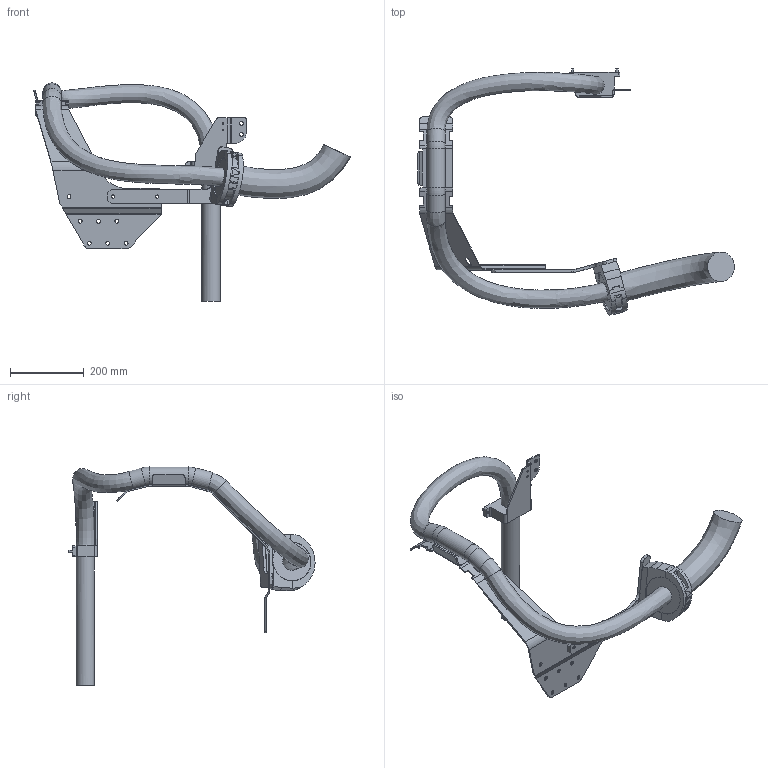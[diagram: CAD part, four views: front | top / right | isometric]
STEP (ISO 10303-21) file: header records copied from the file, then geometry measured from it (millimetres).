
FILE_DESCRIPTION (( 'STEP AP214' ), '1' );
FILE_NAME ('IRB6740-LID-SW_230kg-300_OC_00_LINK01_CABLE.step', '2026-05-07T13:20:35', ( '' ), ( '' ), 'SwSTEP 2.0', 'SolidWorks 2024', '' );
FILE_SCHEMA (( 'AUTOMOTIVE_DESIGN' ));
Length unit declared in the file: millimetre
Products named in the file (1): IRB6740-LID-SW_230kg-300_OC_00_LINK01_CABLE
Bounding box: 860.6 x 669.24 x 592.58 mm (x, y, z)
Volume: 6723050.9 mm3; surface area: 691684.2 mm2
Topology: 1 solids, 1 shells, 352 faces, 910 edges, 573 vertices
Faces by surface type: plane 204, cylinder 131, bspline 13, cone 2, torus 2
Full cylindrical faces by diameter (mm): 5 x2, 6 x2, 7 x2, 8.8 x2, 10.22 x4, 10.5 x9, 11 x2, 50 x1, 107.199 x1
Entity records: 16690 total; most frequent: CARTESIAN_POINT 4406, ORIENTED_EDGE 1728, DIRECTION 1714, EDGE_CURVE 864, AXIS2_PLACEMENT_3D 590, VERTEX_POINT 557, VECTOR 534, LINE 534
